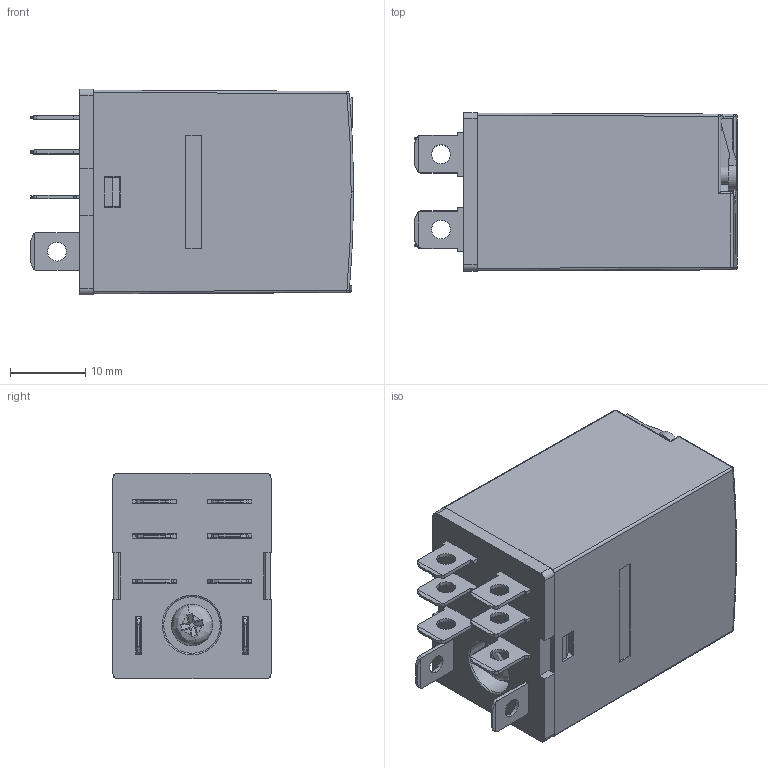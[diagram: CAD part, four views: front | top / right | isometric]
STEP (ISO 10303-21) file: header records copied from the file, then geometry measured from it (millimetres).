
FILE_DESCRIPTION (( 'STEP AP214' ), '1' );
FILE_NAME ('RN08-230AC.STEP', '2026-03-23T10:26:28', ( '' ), ( '' ), 'SwSTEP 2.0', 'SolidWorks 2025', '' );
FILE_SCHEMA (( 'AUTOMOTIVE_DESIGN' ));
Length unit declared in the file: millimetre
Products named in the file (1): RN08-230AC
Bounding box: 42.8 x 21 x 27.3 mm (x, y, z)
Volume: 6729.1 mm3; surface area: 12819.7 mm2
Topology: 13 solids, 13 shells, 1490 faces, 4831 edges, 3558 vertices
Faces by surface type: plane 1146, cylinder 277, bspline 63, cone 4
Entity records: 78019 total; most frequent: CARTESIAN_POINT 19795, ORIENTED_EDGE 9618, DIRECTION 7197, EDGE_CURVE 4809, VERTEX_POINT 3558, VECTOR 3463, LINE 3463, AXIS2_PLACEMENT_3D 1867
